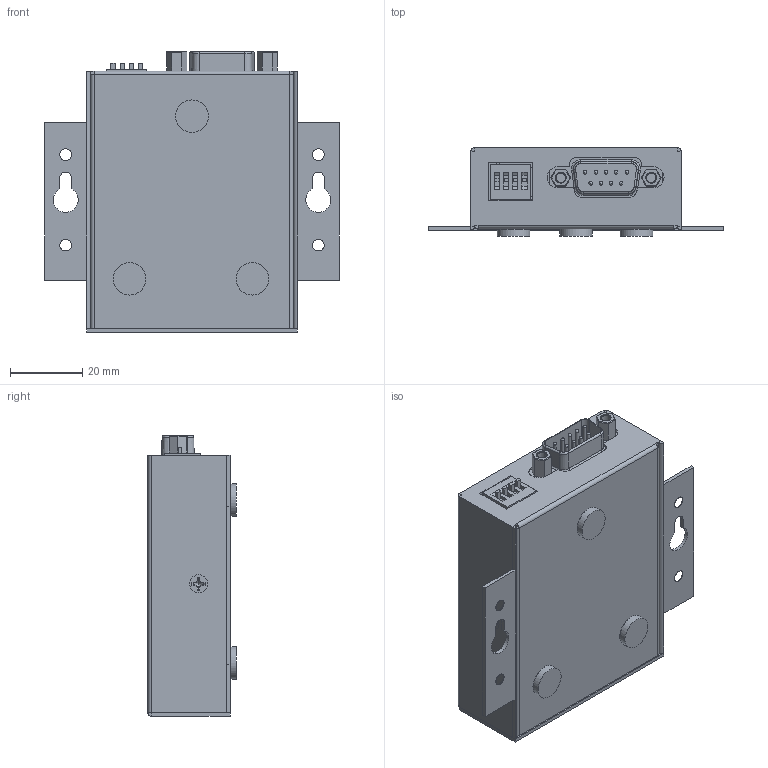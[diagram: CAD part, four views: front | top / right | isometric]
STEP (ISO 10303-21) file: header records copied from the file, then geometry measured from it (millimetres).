
FILE_DESCRIPTION(/* description */ (''),/* implementation_level */ '2;1');
FILE_NAME(/* name */ '/Users/leo/Desktop/Desktop - Leonardo’s MacBook Air/Coolgear May/USBG-COMi-SI-M/USBG-COMi-SI-M.step',/* time_stamp */ '2021-07-14T16:32:51-04:00',/* author */ (''),/* organization */ (''),/* preprocessor_version */ 'ST-DEVELOPER v18.1',/* originating_system */ 'Autodesk Translation Framework v10.9.0.1377',/* authorisation */ '');
FILE_SCHEMA (('AUTOMOTIVE_DESIGN { 1 0 10303 214 3 1 1 }'));
Products named in the file (1): FusionComponent
Bounding box: 81.45 x 24.4 x 77.62 mm (x, y, z)
Volume: 29531.7 mm3; surface area: 46183.2 mm2
Topology: 2 solids, 6 shells, 1827 faces, 5184 edges, 3377 vertices
Faces by surface type: plane 1349, cylinder 391, cone 41, bspline 16, torus 16, sphere 14
Full cylindrical faces by diameter (mm): 1 x15, 1.8 x3, 2.35 x12, 2.6 x2, 2.8 x2, 2.998 x3, 3 x20, 3.2 x4, 3.5 x6, 3.643 x3, 3.8 x6, 5.4 x3, 8.485 x3, 9 x3
Entity records: 64091 total; most frequent: CARTESIAN_POINT 16094, ORIENTED_EDGE 10336, DIRECTION 9427, EDGE_CURVE 5168, LINE 4065, VECTOR 4065, VERTEX_POINT 3377, AXIS2_PLACEMENT_3D 2681
